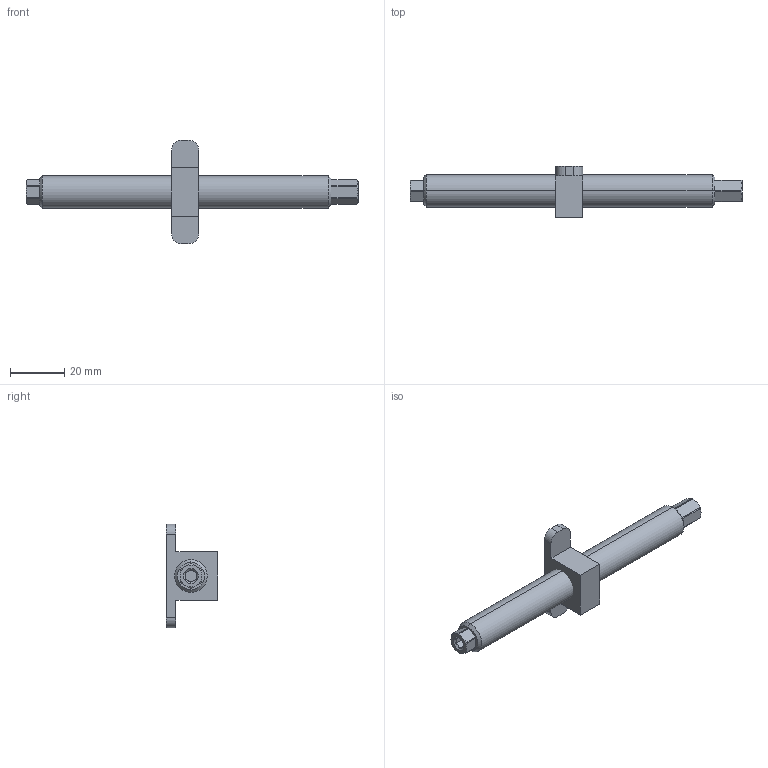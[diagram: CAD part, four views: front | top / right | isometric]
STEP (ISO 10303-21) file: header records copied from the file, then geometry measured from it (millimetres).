
FILE_DESCRIPTION (( 'STEP AP214' ), '1' );
FILE_NAME ('4046122.STEP', '2023-02-08T10:27:42', ( '' ), ( '' ), 'SwSTEP 2.0', 'SolidWorks 2021', '' );
FILE_SCHEMA (( 'AUTOMOTIVE_DESIGN' ));
Length unit declared in the file: millimetre
Products named in the file (1): 4046122
Bounding box: 122 x 18.8 x 38 mm (x, y, z)
Volume: 16696.4 mm3; surface area: 6750.9 mm2
Topology: 2 solids, 2 shells, 82 faces, 201 edges, 127 vertices
Faces by surface type: plane 40, cone 22, cylinder 20
Entity records: 3537 total; most frequent: CARTESIAN_POINT 675, ORIENTED_EDGE 402, DIRECTION 394, EDGE_CURVE 201, AXIS2_PLACEMENT_3D 146, VERTEX_POINT 127, LINE 102, VECTOR 102
